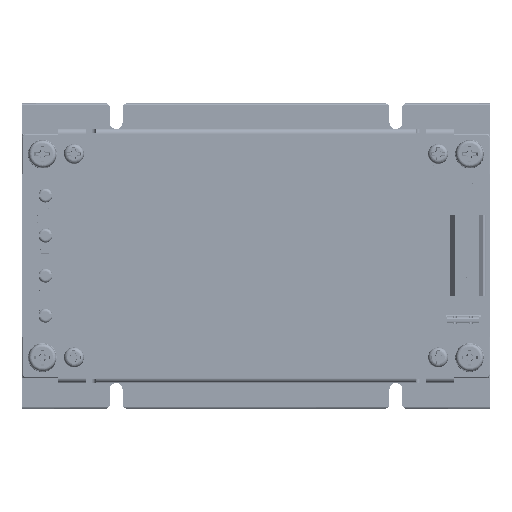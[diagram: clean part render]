
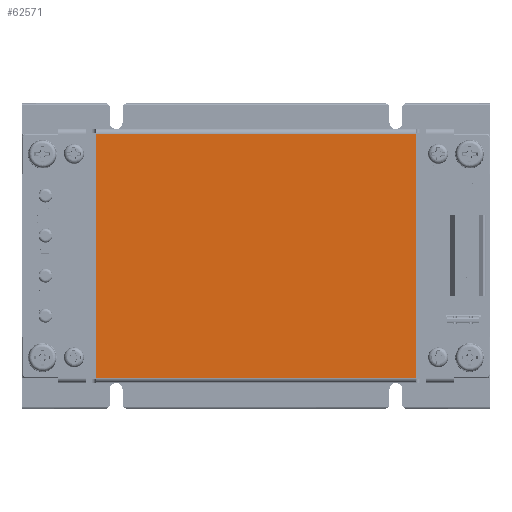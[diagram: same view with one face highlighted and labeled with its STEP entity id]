
A CAD part, top view. The second image highlights one B-rep face of the part: STEP entity #62571.
In plain terms, the highlighted planar face has unit normal (0, 0, 1).
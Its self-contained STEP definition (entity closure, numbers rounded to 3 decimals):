
#3703 = VECTOR ( 'NONE', #121204, 1000. ) ;
#7558 = EDGE_CURVE ( 'NONE', #505941, #315832, #141919, .T. ) ;
#12274 = EDGE_CURVE ( 'NONE', #66939, #315832, #245522, .T. ) ;
#25247 = CARTESIAN_POINT ( 'NONE',  ( 39.992, 40.707, 16.7 ) ) ;
#32400 = DIRECTION ( 'NONE',  ( 0., 1., 0. ) ) ;
#60723 = EDGE_CURVE ( 'NONE', #109935, #505941, #504119, .T. ) ;
#62571 = ADVANCED_FACE ( 'NONE', ( #248428 ), #209498, .T. ) ;
#66833 = VECTOR ( 'NONE', #32400, 1000. ) ;
#66939 = VERTEX_POINT ( 'NONE', #210850 ) ;
#71264 = CARTESIAN_POINT ( 'NONE',  ( 39.992, -20.453, 16.7 ) ) ;
#84859 = CARTESIAN_POINT ( 'NONE',  ( -40.008, -20.453, 16.7 ) ) ;
#89269 = VECTOR ( 'NONE', #213956, 1000. ) ;
#92831 = DIRECTION ( 'NONE',  ( 0., 0., 1. ) ) ;
#102709 = CARTESIAN_POINT ( 'NONE',  ( 39.992, -20.253, 16.7 ) ) ;
#109935 = VERTEX_POINT ( 'NONE', #102709 ) ;
#121204 = DIRECTION ( 'NONE',  ( 0., 1., 0. ) ) ;
#141919 = LINE ( 'NONE', #25247, #395350 ) ;
#172517 = CARTESIAN_POINT ( 'NONE',  ( -40.008, -20.253, 16.7 ) ) ;
#205366 = ORIENTED_EDGE ( 'NONE', *, *, #12274, .F. ) ;
#206956 = CARTESIAN_POINT ( 'NONE',  ( -40.008, -20.453, 16.7 ) ) ;
#209498 = PLANE ( 'NONE',  #373186 ) ;
#210850 = CARTESIAN_POINT ( 'NONE',  ( -40.008, -20.253, 16.7 ) ) ;
#213956 = DIRECTION ( 'NONE',  ( 1., 0., 0. ) ) ;
#234154 = EDGE_CURVE ( 'NONE', #66939, #109935, #454894, .T. ) ;
#245522 = LINE ( 'NONE', #84859, #3703 ) ;
#248428 = FACE_OUTER_BOUND ( 'NONE', #326354, .T. ) ;
#315832 = VERTEX_POINT ( 'NONE', #471054 ) ;
#323502 = ORIENTED_EDGE ( 'NONE', *, *, #60723, .T. ) ;
#323616 = DIRECTION ( 'NONE',  ( 0., -1., 0. ) ) ;
#326354 = EDGE_LOOP ( 'NONE', ( #323502, #331393, #205366, #342705 ) ) ;
#331393 = ORIENTED_EDGE ( 'NONE', *, *, #7558, .T. ) ;
#342705 = ORIENTED_EDGE ( 'NONE', *, *, #234154, .T. ) ;
#349063 = DIRECTION ( 'NONE',  ( -1., 0., 0. ) ) ;
#373186 = AXIS2_PLACEMENT_3D ( 'NONE', #206956, #92831, #323616 ) ;
#395350 = VECTOR ( 'NONE', #349063, 1000. ) ;
#447552 = CARTESIAN_POINT ( 'NONE',  ( 39.992, 40.707, 16.7 ) ) ;
#454894 = LINE ( 'NONE', #172517, #89269 ) ;
#471054 = CARTESIAN_POINT ( 'NONE',  ( -40.008, 40.707, 16.7 ) ) ;
#504119 = LINE ( 'NONE', #71264, #66833 ) ;
#505941 = VERTEX_POINT ( 'NONE', #447552 ) ;
